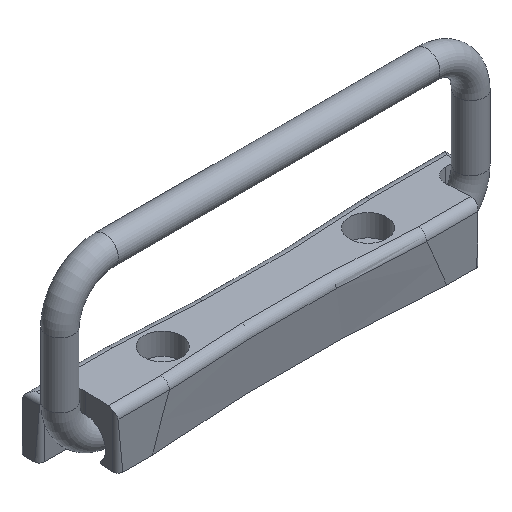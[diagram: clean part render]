
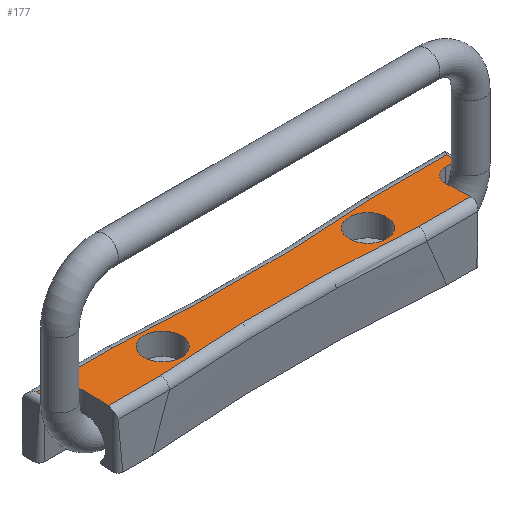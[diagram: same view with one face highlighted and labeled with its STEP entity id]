
A CAD part, isometric view. The second image highlights one B-rep face of the part: STEP entity #177.
In plain terms, the highlighted planar face has unit normal (0, 0, 1).
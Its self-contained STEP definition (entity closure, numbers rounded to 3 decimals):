
#177 = ADVANCED_FACE( '', ( #254, #255, #256 ), #257, .T. );
#254 = FACE_BOUND( '', #408, .T. );
#255 = FACE_BOUND( '', #409, .T. );
#256 = FACE_OUTER_BOUND( '', #410, .T. );
#257 = PLANE( '', #411 );
#408 = EDGE_LOOP( '', ( #611 ) );
#409 = EDGE_LOOP( '', ( #612 ) );
#410 = EDGE_LOOP( '', ( #613, #614, #615, #616, #617, #618, #619, #620, #621, #622, #623, #624, #625, #626 ) );
#411 = AXIS2_PLACEMENT_3D( '', #627, #628, #629 );
#611 = ORIENTED_EDGE( '', *, *, #1104, .F. );
#612 = ORIENTED_EDGE( '', *, *, #1105, .F. );
#613 = ORIENTED_EDGE( '', *, *, #1100, .T. );
#614 = ORIENTED_EDGE( '', *, *, #1106, .F. );
#615 = ORIENTED_EDGE( '', *, *, #1083, .T. );
#616 = ORIENTED_EDGE( '', *, *, #1082, .F. );
#617 = ORIENTED_EDGE( '', *, *, #1098, .T. );
#618 = ORIENTED_EDGE( '', *, *, #1107, .F. );
#619 = ORIENTED_EDGE( '', *, *, #1108, .T. );
#620 = ORIENTED_EDGE( '', *, *, #1109, .F. );
#621 = ORIENTED_EDGE( '', *, *, #1110, .T. );
#622 = ORIENTED_EDGE( '', *, *, #1111, .F. );
#623 = ORIENTED_EDGE( '', *, *, #1112, .T. );
#624 = ORIENTED_EDGE( '', *, *, #1113, .T. );
#625 = ORIENTED_EDGE( '', *, *, #1114, .T. );
#626 = ORIENTED_EDGE( '', *, *, #1115, .F. );
#627 = CARTESIAN_POINT( '', ( -60.5, -4.4, 16. ) );
#628 = DIRECTION( '', ( 0., 0., 1. ) );
#629 = DIRECTION( '', ( 1., 0., 0. ) );
#1082 = EDGE_CURVE( '', #1256, #1251, #1258, .T. );
#1083 = EDGE_CURVE( '', #1259, #1251, #1260, .T. );
#1098 = EDGE_CURVE( '', #1256, #1285, #1287, .T. );
#1100 = EDGE_CURVE( '', #1291, #1289, #1292, .T. );
#1104 = EDGE_CURVE( '', #1298, #1298, #1299, .T. );
#1105 = EDGE_CURVE( '', #1300, #1300, #1301, .T. );
#1106 = EDGE_CURVE( '', #1259, #1289, #1302, .T. );
#1107 = EDGE_CURVE( '', #1303, #1285, #1304, .T. );
#1108 = EDGE_CURVE( '', #1303, #1305, #1306, .T. );
#1109 = EDGE_CURVE( '', #1307, #1305, #1308, .T. );
#1110 = EDGE_CURVE( '', #1307, #1309, #1310, .T. );
#1111 = EDGE_CURVE( '', #1311, #1309, #1312, .T. );
#1112 = EDGE_CURVE( '', #1311, #1313, #1314, .T. );
#1113 = EDGE_CURVE( '', #1313, #1315, #1316, .T. );
#1114 = EDGE_CURVE( '', #1315, #1317, #1318, .T. );
#1115 = EDGE_CURVE( '', #1291, #1317, #1319, .T. );
#1251 = VERTEX_POINT( '', #1628 );
#1256 = VERTEX_POINT( '', #1653 );
#1258 = CIRCLE( '', #1656, 4.034 );
#1259 = VERTEX_POINT( '', #1657 );
#1260 = LINE( '', #1658, #1659 );
#1285 = VERTEX_POINT( '', #1743 );
#1287 = LINE( '', #1745, #1746 );
#1289 = VERTEX_POINT( '', #1748 );
#1291 = VERTEX_POINT( '', #1761 );
#1292 = LINE( '', #1762, #1763 );
#1298 = VERTEX_POINT( '', #1785 );
#1299 = CIRCLE( '', #1786, 5.5 );
#1300 = VERTEX_POINT( '', #1787 );
#1301 = CIRCLE( '', #1788, 5.5 );
#1302 = LINE( '', #1789, #1790 );
#1303 = VERTEX_POINT( '', #1791 );
#1304 = LINE( '', #1792, #1793 );
#1305 = VERTEX_POINT( '', #1794 );
#1306 = CIRCLE( '', #1795, 465.75 );
#1307 = VERTEX_POINT( '', #1796 );
#1308 = LINE( '', #1797, #1798 );
#1309 = VERTEX_POINT( '', #1799 );
#1310 = LINE( '', #1800, #1801 );
#1311 = VERTEX_POINT( '', #1802 );
#1312 = CIRCLE( '', #1803, 4.034 );
#1313 = VERTEX_POINT( '', #1804 );
#1314 = LINE( '', #1805, #1806 );
#1315 = VERTEX_POINT( '', #1807 );
#1316 = LINE( '', #1808, #1809 );
#1317 = VERTEX_POINT( '', #1810 );
#1318 = LINE( '', #1811, #1812 );
#1319 = CIRCLE( '', #1813, 465.75 );
#1628 = CARTESIAN_POINT( '', ( -56.648, -5.9, 16. ) );
#1653 = CARTESIAN_POINT( '', ( -52.618, -10.119, 16. ) );
#1656 = AXIS2_PLACEMENT_3D( '', #2170, #2171, #2172 );
#1657 = CARTESIAN_POINT( '', ( -59.993, -5.9, 16. ) );
#1658 = CARTESIAN_POINT( '', ( -60.5, -5.9, 16. ) );
#1659 = VECTOR( '', #2173, 1000. );
#1743 = CARTESIAN_POINT( '', ( -52.934, -17.027, 16. ) );
#1745 = CARTESIAN_POINT( '', ( -52.618, -10.119, 16. ) );
#1746 = VECTOR( '', #2189, 1000. );
#1748 = CARTESIAN_POINT( '', ( -59.993, -2.973, 16. ) );
#1761 = CARTESIAN_POINT( '', ( -37.684, -2.973, 16. ) );
#1762 = CARTESIAN_POINT( '', ( 62.5, -2.973, 16. ) );
#1763 = VECTOR( '', #2190, 1000. );
#1785 = CARTESIAN_POINT( '', ( 35.5, -10., 16. ) );
#1786 = AXIS2_PLACEMENT_3D( '', #2195, #2196, #2197 );
#1787 = CARTESIAN_POINT( '', ( -24.5, -10., 16. ) );
#1788 = AXIS2_PLACEMENT_3D( '', #2198, #2199, #2200 );
#1789 = CARTESIAN_POINT( '', ( -59.993, -20., 16. ) );
#1790 = VECTOR( '', #2201, 1000. );
#1791 = CARTESIAN_POINT( '', ( -37.684, -17.027, 16. ) );
#1792 = CARTESIAN_POINT( '', ( 62.5, -17.027, 16. ) );
#1793 = VECTOR( '', #2202, 1000. );
#1794 = CARTESIAN_POINT( '', ( 37.684, -17.027, 16. ) );
#1795 = AXIS2_PLACEMENT_3D( '', #2203, #2204, #2205 );
#1796 = CARTESIAN_POINT( '', ( 52.934, -17.027, 16. ) );
#1797 = CARTESIAN_POINT( '', ( 62.5, -17.027, 16. ) );
#1798 = VECTOR( '', #2206, 1000. );
#1799 = CARTESIAN_POINT( '', ( 52.618, -10.119, 16. ) );
#1800 = CARTESIAN_POINT( '', ( 52.998, -18.433, 16. ) );
#1801 = VECTOR( '', #2207, 1000. );
#1802 = CARTESIAN_POINT( '', ( 56.648, -5.9, 16. ) );
#1803 = AXIS2_PLACEMENT_3D( '', #2208, #2209, #2210 );
#1804 = CARTESIAN_POINT( '', ( 59.993, -5.9, 16. ) );
#1805 = CARTESIAN_POINT( '', ( 56.648, -5.9, 16. ) );
#1806 = VECTOR( '', #2211, 1000. );
#1807 = CARTESIAN_POINT( '', ( 59.993, -2.973, 16. ) );
#1808 = CARTESIAN_POINT( '', ( 59.993, -20., 16. ) );
#1809 = VECTOR( '', #2212, 1000. );
#1810 = CARTESIAN_POINT( '', ( 37.684, -2.973, 16. ) );
#1811 = CARTESIAN_POINT( '', ( 62.5, -2.973, 16. ) );
#1812 = VECTOR( '', #2213, 1000. );
#1813 = AXIS2_PLACEMENT_3D( '', #2214, #2215, #2216 );
#2170 = CARTESIAN_POINT( '', ( -56.648, -9.934, 16. ) );
#2171 = DIRECTION( '', ( 0., 0., 1. ) );
#2172 = DIRECTION( '', ( 1., 0., 0. ) );
#2173 = DIRECTION( '', ( 1., 0., 0. ) );
#2189 = DIRECTION( '', ( -0.046, -0.999, 0. ) );
#2190 = DIRECTION( '', ( -1., 0., 0. ) );
#2195 = CARTESIAN_POINT( '', ( 30., -10., 16. ) );
#2196 = DIRECTION( '', ( 0., 0., 1. ) );
#2197 = DIRECTION( '', ( 1., 0., 0. ) );
#2198 = CARTESIAN_POINT( '', ( -30., -10., 16. ) );
#2199 = DIRECTION( '', ( 0., 0., 1. ) );
#2200 = DIRECTION( '', ( 1., 0., 0. ) );
#2201 = DIRECTION( '', ( 0., 1., 0. ) );
#2202 = DIRECTION( '', ( -1., 0., 0. ) );
#2203 = CARTESIAN_POINT( '', ( 0., -481.25, 16. ) );
#2204 = DIRECTION( '', ( 0., 0., -1. ) );
#2205 = DIRECTION( '', ( -1., 0., 0. ) );
#2206 = DIRECTION( '', ( -1., 0., 0. ) );
#2207 = DIRECTION( '', ( -0.046, 0.999, 0. ) );
#2208 = CARTESIAN_POINT( '', ( 56.648, -9.934, 16. ) );
#2209 = DIRECTION( '', ( 0., 0., 1. ) );
#2210 = DIRECTION( '', ( 1., 0., 0. ) );
#2211 = DIRECTION( '', ( 1., 0., 0. ) );
#2212 = DIRECTION( '', ( 0., 1., 0. ) );
#2213 = DIRECTION( '', ( -1., 0., 0. ) );
#2214 = CARTESIAN_POINT( '', ( 0., 461.25, 16. ) );
#2215 = DIRECTION( '', ( 0., 0., 1. ) );
#2216 = DIRECTION( '', ( 1., 0., 0. ) );
